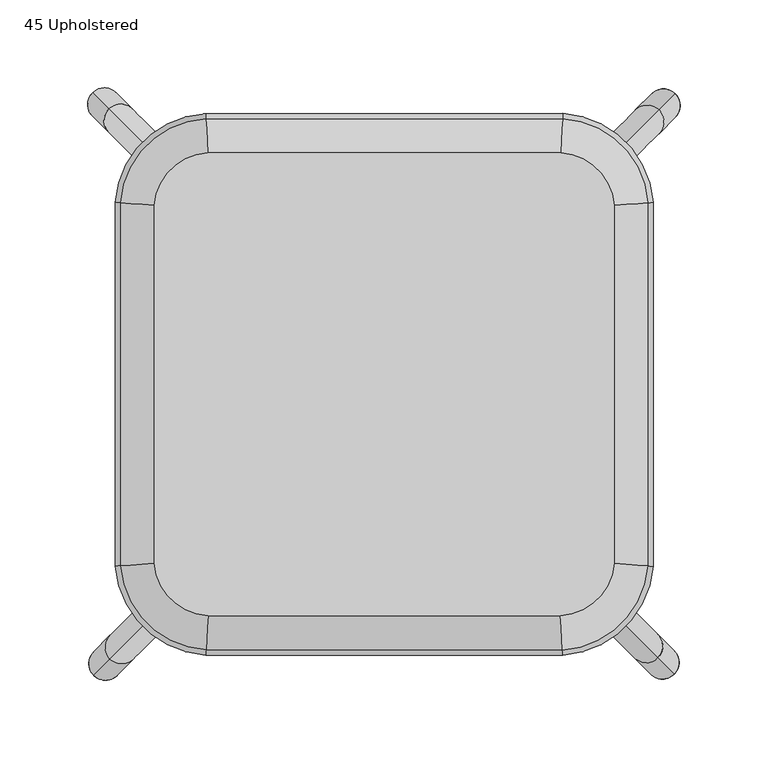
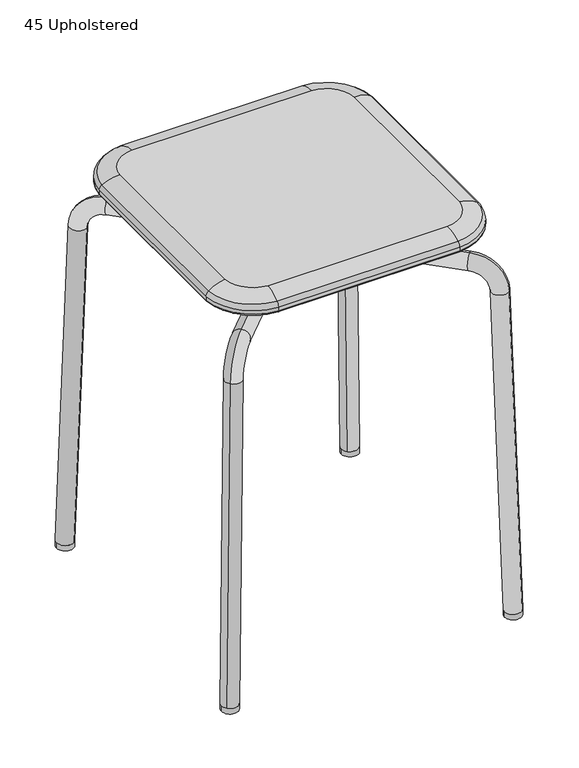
"""IFC4 building model written with IfcOpenShell, lengths in millimetres: furniture geometry, Grip NxT Stool : 45 Upholstered."""

from ifc_helpers import new_model, si_unit, point, frame, frame_2d, origin, origin_with_axes, place, context, project, spatial, circle_curve, ellipse_curve, trimmed, segment, composite_curve, outline, extrude, source, transform, mapped, element, save
from ifc_brep_helpers import plane_surface, cylinder_surface, revolved_surface, advanced_brep


def furniture_45_upholstered_5a6439fb(model_context):
    return source(origin(), model_context, "Body", "SolidModel", [
        advanced_brep(
        [(165.2549262, -165.2549262, 6.7653221), (151.8280816, -151.8280816, 6.1022316), (155.9976183, -155.9976183, 381.66572), (142.5707737, -142.5707737, 381.0026295), (128.0839151, -128.0839151, 419.7871899), (128.0839151, -128.0839151, 400.7871899), (0.1314281, -0.1314281, 419.7871899), (0.1314281, -0.1314281, 400.7871899), (-129.1039076, 129.1039076, 419.7871899), (-129.1039076, 129.1039076, 400.7871899), (-157.0176108, 157.0176108, 381.66572), (-143.5907662, 143.5907662, 381.0026295), (-166.2737555, 166.2737555, 6.812426), (-152.846911, 152.846911, 6.1493355), (165.895769, 165.6329127, 6.7653221), (152.4689244, 152.2060681, 6.1022316), (156.6384611, 156.3756048, 381.66572), (143.2116165, 142.9487603, 381.0026295), (128.7247579, 128.4619016, 419.7871899), (128.7247579, 128.4619016, 400.7871899), (-128.4630647, -128.725921, 419.7871899), (-128.4630647, -128.725921, 400.7871899), (-156.376768, -156.6396242, 381.66572), (-142.9499234, -143.2127797, 381.0026295), (-165.6329127, -165.895769, 6.812426), (-152.2060681, -152.4689244, 6.1493355)],
        [
            (0, 1, circle_curve(frame((158.5415039, -158.5415039, 6.4337769), z_axis=(0.024677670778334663, -0.02467767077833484, -0.9993908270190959), x_axis=(-0.7066760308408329, 0.7066760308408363, -0.034899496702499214)), 9.5)),
            (1, 0, circle_curve(frame((158.5415039, -158.5415039, 6.4337769), z_axis=(0.024677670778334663, -0.02467767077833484, -0.9993908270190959), x_axis=(-0.7066760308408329, 0.7066760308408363, -0.034899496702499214)), 9.5)),
            (0, 2),
            (2, 3, circle_curve(frame((149.284196, -149.284196, 381.3341748), z_axis=(0.024677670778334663, -0.02467767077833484, -0.9993908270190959), x_axis=(-0.7066760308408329, 0.7066760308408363, -0.034899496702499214)), 9.5)),
            (3, 1),
            (3, 2, circle_curve(frame((149.284196, -149.284196, 381.3341748), z_axis=(0.024677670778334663, -0.02467767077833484, -0.9993908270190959), x_axis=(-0.7066760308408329, 0.7066760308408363, -0.034899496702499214)), 9.5)),
            (2, 4, circle_curve(frame((128.0839151, -128.0839151, 380.2871899), z_axis=(-0.7071067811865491, -0.7071067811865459, 0.0), x_axis=(0.7066760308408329, -0.7066760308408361, 0.03489949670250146)), 39.5)),
            (4, 5, circle_curve(frame((128.0839151, -128.0839151, 410.2871899), z_axis=(0.7071067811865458, -0.7071067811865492, 0.0), x_axis=(0.0, 0.0, -1.0)), 9.5)),
            (5, 3, circle_curve(frame((128.0839151, -128.0839151, 380.2871899), z_axis=(0.7071067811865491, 0.7071067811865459, 0.0), x_axis=(0.7066760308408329, -0.7066760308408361, 0.03489949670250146)), 20.5)),
            (5, 4, circle_curve(frame((128.0839151, -128.0839151, 410.2871899), z_axis=(0.7071067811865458, -0.7071067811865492, 0.0), x_axis=(0.0, 0.0, -1.0)), 9.5)),
            (4, 6),
            (6, 7, ellipse_curve(frame((0.1314281, -0.1314281, 410.2871899), z_axis=(1.0, 0.0, 0.0), x_axis=(0.0, -1.0, 0.0)), 13.4350288, 9.5)),
            (7, 5),
            (8, 9, circle_curve(frame((-129.1039076, 129.1039076, 410.2871899), z_axis=(0.7071067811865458, -0.7071067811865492, 0.0), x_axis=(0.0, 0.0, -1.0)), 9.5)),
            (9, 7),
            (7, 6, ellipse_curve(frame((0.1314281, -0.1314281, 410.2871899), z_axis=(0.0, 1.0, 0.0), x_axis=(1.0, 0.0, 0.0)), 13.4350288, 9.5)),
            (6, 8),
            (7, 6, ellipse_curve(frame((0.1314281, -0.1314281, 410.2871899), z_axis=(0.0, -1.0, 0.0), x_axis=(1.0, 0.0, 0.0)), 13.4350288, 9.5)),
            (9, 8, circle_curve(frame((-129.1039076, 129.1039076, 410.2871899), z_axis=(0.7071067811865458, -0.7071067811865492, 0.0), x_axis=(0.0, 0.0, -1.0)), 9.5)),
            (6, 7, ellipse_curve(frame((0.1314281, -0.1314281, 410.2871899), z_axis=(-1.0, 0.0, 0.0), x_axis=(0.0, -1.0, 0.0)), 13.4350288, 9.5)),
            (8, 10, circle_curve(frame((-129.1039076, 129.1039076, 380.2871899), z_axis=(-0.7071067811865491, -0.7071067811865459, 0.0), x_axis=(0.0, 0.0, 1.0)), 39.5)),
            (10, 11, circle_curve(frame((-150.3041885, 150.3041885, 381.3341748), z_axis=(0.024677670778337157, -0.02467767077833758, 0.9993908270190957), x_axis=(0.7066760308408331, -0.7066760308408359, -0.03489949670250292)), 9.5)),
            (11, 9, circle_curve(frame((-129.1039076, 129.1039076, 380.2871899), z_axis=(0.7071067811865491, 0.7071067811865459, 0.0), x_axis=(0.0, 0.0, 1.0)), 20.5)),
            (11, 10, circle_curve(frame((-150.3041885, 150.3041885, 381.3341748), z_axis=(0.02467767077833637, -0.024677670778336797, 0.9993908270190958), x_axis=(0.7066760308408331, -0.7066760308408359, -0.03489949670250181)), 9.5)),
            (12, 13, circle_curve(frame((-159.5603333, 159.5603333, 6.4808807), z_axis=(-0.024677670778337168, 0.02467767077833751, -0.9993908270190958), x_axis=(0.7066760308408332, -0.7066760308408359, -0.03489949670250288)), 9.5)),
            (13, 12, circle_curve(frame((-159.5603333, 159.5603333, 6.4808807), z_axis=(-0.024677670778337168, 0.02467767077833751, -0.9993908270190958), x_axis=(0.7066760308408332, -0.7066760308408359, -0.03489949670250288)), 9.5)),
            (10, 12),
            (13, 11),
            (14, 15, circle_curve(frame((159.1823467, 158.9194904, 6.4337769), z_axis=(0.024677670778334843, 0.024677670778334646, -0.9993908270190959), x_axis=(-0.706676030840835, -0.7066760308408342, -0.03489949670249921)), 9.5)),
            (15, 14, circle_curve(frame((159.1823467, 158.9194904, 6.4337769), z_axis=(0.024677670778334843, 0.024677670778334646, -0.9993908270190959), x_axis=(-0.706676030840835, -0.7066760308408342, -0.03489949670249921)), 9.5)),
            (14, 16),
            (16, 17, circle_curve(frame((149.9250388, 149.6621825, 381.3341748), z_axis=(0.024677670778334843, 0.024677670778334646, -0.9993908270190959), x_axis=(-0.706676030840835, -0.7066760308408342, -0.03489949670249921)), 9.5)),
            (17, 15),
            (17, 16, circle_curve(frame((149.9250388, 149.6621825, 381.3341748), z_axis=(0.024677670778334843, 0.024677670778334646, -0.9993908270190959), x_axis=(-0.706676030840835, -0.7066760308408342, -0.03489949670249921)), 9.5)),
            (16, 18, circle_curve(frame((128.7247579, 128.4619016, 380.2871899), z_axis=(0.707106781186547, -0.707106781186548, 0.0), x_axis=(0.706676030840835, 0.706676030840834, 0.03489949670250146)), 39.5)),
            (18, 19, circle_curve(frame((128.7247579, 128.4619016, 410.2871899), z_axis=(0.7071067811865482, 0.707106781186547, 0.0), x_axis=(0.0, 0.0, -1.0)), 9.5)),
            (19, 17, circle_curve(frame((128.7247579, 128.4619016, 380.2871899), z_axis=(-0.707106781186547, 0.707106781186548, 0.0), x_axis=(0.706676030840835, 0.706676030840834, 0.03489949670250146)), 20.5)),
            (19, 18, circle_curve(frame((128.7247579, 128.4619016, 410.2871899), z_axis=(0.7071067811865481, 0.7071067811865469, 0.0), x_axis=(0.0, 0.0, -1.0)), 9.5)),
            (18, 6),
            (7, 19),
            (20, 21, circle_curve(frame((-128.4630647, -128.725921, 410.2871899), z_axis=(0.7071067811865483, 0.7071067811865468, 0.0), x_axis=(0.0, 0.0, -1.0)), 9.5)),
            (21, 7),
            (6, 20),
            (21, 20, circle_curve(frame((-128.4630647, -128.725921, 410.2871899), z_axis=(0.7071067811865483, 0.7071067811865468, 0.0), x_axis=(0.0, 0.0, -1.0)), 9.5)),
            (20, 22, circle_curve(frame((-128.4630647, -128.725921, 380.2871899), z_axis=(0.707106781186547, -0.707106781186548, 0.0), x_axis=(0.0, 0.0, 1.0)), 39.5)),
            (22, 23, circle_curve(frame((-149.6633457, -149.9262019, 381.3341748), z_axis=(0.02467767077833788, 0.02467767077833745, 0.9993908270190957), x_axis=(0.7066760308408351, 0.7066760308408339, -0.03489949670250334)), 9.5)),
            (23, 21, circle_curve(frame((-128.4630647, -128.725921, 380.2871899), z_axis=(-0.707106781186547, 0.707106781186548, 0.0), x_axis=(0.0, 0.0, 1.0)), 20.5)),
            (23, 22, circle_curve(frame((-149.6633457, -149.9262019, 381.3341748), z_axis=(0.024677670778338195, 0.024677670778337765, 0.9993908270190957), x_axis=(0.7066760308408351, 0.7066760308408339, -0.034899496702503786)), 9.5)),
            (24, 25, circle_curve(frame((-158.9194904, -159.1823467, 6.4808807), z_axis=(-0.02467767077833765, -0.024677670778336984, -0.9993908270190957), x_axis=(0.7066760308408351, 0.7066760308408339, -0.03489949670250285)), 9.5)),
            (25, 24, circle_curve(frame((-158.9194904, -159.1823467, 6.4808807), z_axis=(-0.02467767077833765, -0.024677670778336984, -0.9993908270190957), x_axis=(0.7066760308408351, 0.7066760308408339, -0.03489949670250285)), 9.5)),
            (22, 24),
            (25, 23),
        ],
        [
            plane_surface(frame((158.5415039, -158.5415039, 6.4337769), z_axis=(0.024677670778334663, -0.02467767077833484, -0.9993908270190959), x_axis=(-0.707106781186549, -0.7071067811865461, 0.0))),
            cylinder_surface(frame((158.5415039, -158.5415039, 6.4337769), z_axis=(0.024677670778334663, -0.02467767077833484, -0.9993908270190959), x_axis=(-0.7066760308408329, 0.7066760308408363, -0.034899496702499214)), 9.5),
            revolved_surface(trimmed(ellipse_curve(frame((149.284196, -149.284196, 381.3341748), z_axis=(0.024677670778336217, -0.02467767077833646, -0.9993908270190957), x_axis=(-0.7066760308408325, 0.7066760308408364, -0.03489949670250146)), 9.5, 9.5), [point((155.9976183, -155.9976183, 381.66572))], [point((142.5707737, -142.5707737, 381.0026295))], True, "CARTESIAN"), (128.0839151, -128.0839151, 380.2871899), (-0.7071067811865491, -0.7071067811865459, 0.0)),
            revolved_surface(trimmed(ellipse_curve(frame((149.284196, -149.284196, 381.3341748), z_axis=(0.024677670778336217, -0.02467767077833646, -0.9993908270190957), x_axis=(-0.7066760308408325, 0.7066760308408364, -0.03489949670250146)), 9.5, 9.5), [point((142.5707737, -142.5707737, 381.0026295))], [point((155.9976183, -155.9976183, 381.66572))], True, "CARTESIAN"), (128.0839151, -128.0839151, 380.2871899), (-0.7071067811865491, -0.7071067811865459, 0.0)),
            cylinder_surface(frame((128.0839151, -128.0839151, 410.2871899), z_axis=(0.7071067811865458, -0.7071067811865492, 0.0), x_axis=(0.0, 0.0, -1.0)), 9.5),
            revolved_surface(trimmed(ellipse_curve(frame((-129.1039076, 129.1039076, 410.2871899), z_axis=(0.7071067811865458, -0.7071067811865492, 0.0), x_axis=(0.0, 0.0, -1.0)), 9.5, 9.5), [point((-129.1039076, 129.1039076, 419.7871899))], [point((-129.1039076, 129.1039076, 400.7871899))], True, "CARTESIAN"), (-129.1039076, 129.1039076, 380.2871899), (-0.7071067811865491, -0.7071067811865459, 0.0)),
            revolved_surface(trimmed(ellipse_curve(frame((-129.1039076, 129.1039076, 410.2871899), z_axis=(0.7071067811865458, -0.7071067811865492, 0.0), x_axis=(0.0, 0.0, -1.0)), 9.5, 9.5), [point((-129.1039076, 129.1039076, 400.7871899))], [point((-129.1039076, 129.1039076, 419.7871899))], True, "CARTESIAN"), (-129.1039076, 129.1039076, 380.2871899), (-0.7071067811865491, -0.7071067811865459, 0.0)),
            plane_surface(frame((-159.5603333, 159.5603333, 6.4808807), z_axis=(-0.024677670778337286, 0.0246776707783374, -0.9993908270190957), x_axis=(-0.7071067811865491, -0.7071067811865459, 0.0))),
            cylinder_surface(frame((-150.3041885, 150.3041885, 381.3341748), z_axis=(0.024677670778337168, -0.02467767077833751, 0.9993908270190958), x_axis=(0.7066760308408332, -0.7066760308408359, -0.03489949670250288)), 9.5),
            plane_surface(frame((159.1823467, 158.9194904, 6.4337769), z_axis=(0.024677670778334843, 0.024677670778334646, -0.9993908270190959), x_axis=(0.707106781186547, -0.7071067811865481, 0.0))),
            cylinder_surface(frame((159.1823467, 158.9194904, 6.4337769), z_axis=(0.024677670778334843, 0.024677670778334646, -0.9993908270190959), x_axis=(-0.706676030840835, -0.7066760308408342, -0.03489949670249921)), 9.5),
            revolved_surface(trimmed(ellipse_curve(frame((149.9250388, 149.6621825, 381.3341748), z_axis=(0.024677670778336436, 0.024677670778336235, -0.9993908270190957), x_axis=(-0.7066760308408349, -0.7066760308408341, -0.034899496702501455)), 9.5, 9.5), [point((156.6384611, 156.3756048, 381.66572))], [point((143.2116165, 142.9487603, 381.0026295))], True, "CARTESIAN"), (128.7247579, 128.4619016, 380.2871899), (0.707106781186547, -0.707106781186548, 0.0)),
            revolved_surface(trimmed(ellipse_curve(frame((149.9250388, 149.6621825, 381.3341748), z_axis=(0.024677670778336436, 0.024677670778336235, -0.9993908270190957), x_axis=(-0.7066760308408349, -0.7066760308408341, -0.034899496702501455)), 9.5, 9.5), [point((143.2116165, 142.9487603, 381.0026295))], [point((156.6384611, 156.3756048, 381.66572))], True, "CARTESIAN"), (128.7247579, 128.4619016, 380.2871899), (0.707106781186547, -0.707106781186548, 0.0)),
            cylinder_surface(frame((128.7247579, 128.4619016, 410.2871899), z_axis=(0.7071067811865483, 0.7071067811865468, 0.0), x_axis=(0.0, 0.0, -1.0)), 9.5),
            revolved_surface(trimmed(ellipse_curve(frame((-128.4630647, -128.725921, 410.2871899), z_axis=(0.7071067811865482, 0.7071067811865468, 0.0), x_axis=(0.0, 0.0, -1.0)), 9.5, 9.5), [point((-128.4630647, -128.725921, 419.7871899))], [point((-128.4630647, -128.725921, 400.7871899))], True, "CARTESIAN"), (-128.4630647, -128.725921, 380.2871899), (0.707106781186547, -0.707106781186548, 0.0)),
            revolved_surface(trimmed(ellipse_curve(frame((-128.4630647, -128.725921, 410.2871899), z_axis=(0.7071067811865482, 0.7071067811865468, 0.0), x_axis=(0.0, 0.0, -1.0)), 9.5, 9.5), [point((-128.4630647, -128.725921, 400.7871899))], [point((-128.4630647, -128.725921, 419.7871899))], True, "CARTESIAN"), (-128.4630647, -128.725921, 380.2871899), (0.707106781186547, -0.707106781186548, 0.0)),
            plane_surface(frame((-158.9194904, -159.1823467, 6.4808807), z_axis=(-0.024677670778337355, -0.024677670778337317, -0.9993908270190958), x_axis=(0.707106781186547, -0.7071067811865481, 0.0))),
            cylinder_surface(frame((-149.6633457, -149.9262019, 381.3341748), z_axis=(0.024677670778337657, 0.02467767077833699, 0.9993908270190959), x_axis=(0.7066760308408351, 0.7066760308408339, -0.03489949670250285)), 9.5),
        ],
        [
            (0, [[1, 2]]),
            (1, [[-1, 3, 4, 5]]),
            (1, [[-2, -5, 6, -3]]),
            (2, [[-4, 7, 8, 9]]),
            (3, [[-6, -9, 10, -7]]),
            (4, [[-8, 11, 12, 13]]),
            (4, [[14, 15, 16, 17]]),
            (4, [[-10, -13, 18, -11]]),
            (4, [[19, -17, 20, -15]]),
            (5, [[-14, 21, 22, 23]]),
            (6, [[-19, -23, 24, -21]]),
            (7, [[25, 26]]),
            (8, [[-22, 27, -26, 28]]),
            (8, [[-24, -28, -25, -27]]),
            (9, [[29, 30]]),
            (10, [[-29, 31, 32, 33]]),
            (10, [[-30, -33, 34, -31]]),
            (11, [[-32, 35, 36, 37]]),
            (12, [[-34, -37, 38, -35]]),
            (13, [[-36, 39, -18, 40]]),
            (13, [[41, 42, -12, 43]]),
            (13, [[-38, -40, -20, -39]]),
            (13, [[44, -43, -16, -42]]),
            (14, [[-41, 45, 46, 47]]),
            (15, [[-44, -47, 48, -45]]),
            (16, [[49, 50]]),
            (17, [[-46, 51, -50, 52]]),
            (17, [[-48, -52, -49, -51]]),
        ],
    ),
        extrude(outline(composite_curve([segment(trimmed(circle_curve(frame_2d((-62.8430475, -62.9984816)), 9.0), [point((-71.8430475, -62.9984816))], [point((-53.8430475, -62.9984816))], False, "CARTESIAN"), True, "CONTINUOUS"), segment(trimmed(circle_curve(frame_2d((-62.8430475, -62.9984816)), 9.0), [point((-53.8430475, -62.9984816))], [point((-71.8430475, -62.9984816))], False, "CARTESIAN"), True, "CONTINUOUS")], self_intersect=False)), frame((0.0, 0.0, 388.5318909), z_axis=(0.0, 0.0, 1.0), x_axis=(1.0, 0.0, 0.0)), (0.0, 0.0, 1.0), 56.7956238),
        extrude(outline(composite_curve([segment(trimmed(circle_curve(frame_2d((-62.9013824, 62.8818117)), 9.0), [point((-71.9013824, 62.8818117))], [point((-53.9013824, 62.8818117))], False, "CARTESIAN"), True, "CONTINUOUS"), segment(trimmed(circle_curve(frame_2d((-62.9013824, 62.8818117)), 9.0), [point((-53.9013824, 62.8818117))], [point((-71.9013824, 62.8818117))], False, "CARTESIAN"), True, "CONTINUOUS")], self_intersect=False)), frame((0.0, 0.0, 388.5318909), z_axis=(0.0, 0.0, 1.0), x_axis=(1.0, 0.0, 0.0)), (0.0, 0.0, 1.0), 56.7956238),
        extrude(outline(composite_curve([segment(trimmed(circle_curve(frame_2d((63.0190462, 62.6464842)), 9.0), [point((72.0190462, 62.6464842))], [point((54.0190462, 62.6464842))], False, "CARTESIAN"), True, "CONTINUOUS"), segment(trimmed(circle_curve(frame_2d((63.0190462, 62.6464842)), 9.0), [point((54.0190462, 62.6464842))], [point((72.0190462, 62.6464842))], False, "CARTESIAN"), True, "CONTINUOUS")], self_intersect=False)), frame((0.0, 0.0, 388.5318909), z_axis=(0.0, 0.0, 1.0), x_axis=(1.0, 0.0, 0.0)), (0.0, 0.0, 1.0), 56.7956238),
        extrude(outline(composite_curve([segment(trimmed(circle_curve(frame_2d((62.8430475, -62.9984816)), 9.0), [point((71.8430475, -62.9984816))], [point((53.8430475, -62.9984816))], False, "CARTESIAN"), True, "CONTINUOUS"), segment(trimmed(circle_curve(frame_2d((62.8430475, -62.9984816)), 9.0), [point((53.8430475, -62.9984816))], [point((71.8430475, -62.9984816))], False, "CARTESIAN"), True, "CONTINUOUS")], self_intersect=False)), frame((0.0, 0.0, 388.5318909), z_axis=(0.0, 0.0, 1.0), x_axis=(1.0, 0.0, 0.0)), (0.0, 0.0, 1.0), 56.7956238),
        extrude(outline(composite_curve([segment(trimmed(circle_curve(frame_2d((-158.9072278, -159.1772871)), 9.5), [point((-168.4072278, -159.1772871))], [point((-149.4072278, -159.1772871))], False, "CARTESIAN"), True, "CONTINUOUS"), segment(trimmed(circle_curve(frame_2d((-158.9072278, -159.1772871)), 9.5), [point((-149.4072278, -159.1772871))], [point((-168.4072278, -159.1772871))], False, "CARTESIAN"), True, "CONTINUOUS")], self_intersect=False)), origin_with_axes(), (0.0, 0.0, 1.0), 7.0),
        extrude(outline(composite_curve([segment(trimmed(circle_curve(frame_2d((-159.4918114, 159.500871)), 9.5), [point((-168.9918114, 159.500871))], [point((-149.9918114, 159.500871))], False, "CARTESIAN"), True, "CONTINUOUS"), segment(trimmed(circle_curve(frame_2d((-159.4918114, 159.500871)), 9.5), [point((-149.9918114, 159.500871))], [point((-168.9918114, 159.500871))], False, "CARTESIAN"), True, "CONTINUOUS")], self_intersect=False)), origin_with_axes(), (0.0, 0.0, 1.0), 7.0),
        extrude(outline(composite_curve([segment(trimmed(circle_curve(frame_2d((159.1861771, 158.971276)), 9.5325021), [point((149.653675, 158.971276))], [point((168.7186793, 158.971276))], False, "CARTESIAN"), True, "CONTINUOUS"), segment(trimmed(circle_curve(frame_2d((159.1861771, 158.971276)), 9.5325021), [point((168.7186793, 158.971276))], [point((149.653675, 158.971276))], False, "CARTESIAN"), True, "CONTINUOUS")], self_intersect=False)), origin_with_axes(), (0.0, 0.0, 1.0), 7.0),
        extrude(outline(composite_curve([segment(trimmed(circle_curve(frame_2d((158.5471745, -158.5595901)), 9.5), [point((149.0471745, -158.5595901))], [point((168.0471745, -158.5595901))], False, "CARTESIAN"), True, "CONTINUOUS"), segment(trimmed(circle_curve(frame_2d((158.5471745, -158.5595901)), 9.5), [point((168.0471745, -158.5595901))], [point((149.0471745, -158.5595901))], False, "CARTESIAN"), True, "CONTINUOUS")], self_intersect=False)), origin_with_axes(), (0.0, 0.0, 1.0), 7.0),
        advanced_brep(
        [(62.864624, 55.9496384, 455.3895874), (62.864624, 69.8431778, 455.3895874), (62.864624, 62.8964081, 455.3895874), (62.864624, 62.8964081, 456.5699158)],
        [
            (0, 1, circle_curve(frame((62.864624, 62.8964081, 455.3895874), z_axis=(0.0, 0.0, -1.0), x_axis=(0.0, 1.0, 0.0)), 6.9467697)),
            (1, 2),
            (2, 0),
            (1, 0, circle_curve(frame((62.864624, 62.8964081, 455.3895874), z_axis=(0.0, 0.0, -1.0), x_axis=(0.0, 1.0, 0.0)), 6.9467697)),
            (3, 1, circle_curve(frame((62.864624, 63.1234591, 436.8735995), z_axis=(-1.0, 0.0, 0.0), x_axis=(0.0, 1.0, 0.0)), 19.6976249)),
            (0, 3, circle_curve(frame((62.864624, 62.669357, 436.8735995), z_axis=(-1.0, 0.0, 0.0), x_axis=(0.0, -1.0, 0.0)), 19.6976249)),
        ],
        [
            plane_surface(frame((62.864624, 62.8964081, 455.3895874), z_axis=(0.0, 0.0, -1.0), x_axis=(0.0, 1.0, 0.0))),
            revolved_surface(trimmed(ellipse_curve(frame((62.864624, 63.1234591, 436.8735995), z_axis=(1.0, 0.0, 0.0), x_axis=(0.0, 1.0, 0.0)), 19.6976249, 19.6976249), [point((62.864624, 69.8431778, 455.3895874))], [point((62.864624, 62.8964081, 456.5699158))], True, "CARTESIAN"), (62.864624, 62.8964081, 456.2266692), (0.0, 0.0, 1.0)),
        ],
        [
            (0, [[1, 2, 3]]),
            (0, [[4, -3, -2]]),
            (1, [[5, -1, 6]]),
            (1, [[-6, -4, -5]]),
        ],
    ),
        advanced_brep(
        [(62.864624, -62.8964081, 455.3895874), (62.864624, -69.8431778, 455.3895874), (62.864624, -55.9496384, 455.3895874), (62.864624, -62.8964081, 456.5699158)],
        [
            (0, 1),
            (1, 2, circle_curve(frame((62.864624, -62.8964081, 455.3895874), z_axis=(0.0, 0.0, -1.0), x_axis=(0.0, -1.0, 0.0)), 6.9467697)),
            (2, 0),
            (2, 1, circle_curve(frame((62.864624, -62.8964081, 455.3895874), z_axis=(0.0, 0.0, -1.0), x_axis=(0.0, -1.0, 0.0)), 6.9467697)),
            (1, 3, circle_curve(frame((62.864624, -63.1234591, 436.8735995), z_axis=(-1.0, 0.0, 0.0), x_axis=(0.0, -1.0, 0.0)), 19.6976249)),
            (3, 2, circle_curve(frame((62.864624, -62.669357, 436.8735995), z_axis=(-1.0, 0.0, 0.0), x_axis=(0.0, 1.0, 0.0)), 19.6976249)),
        ],
        [
            plane_surface(frame((62.864624, -62.8964081, 455.3895874), z_axis=(0.0, 0.0, -1.0), x_axis=(0.0, -1.0, 0.0))),
            revolved_surface(trimmed(ellipse_curve(frame((62.864624, -63.1234591, 436.8735995), z_axis=(1.0, 0.0, 0.0), x_axis=(0.0, -1.0, 0.0)), 19.6976249, 19.6976249), [point((62.864624, -62.8964081, 456.5699158))], [point((62.864624, -69.8431778, 455.3895874))], True, "CARTESIAN"), (62.864624, -62.8964081, 456.2266692), (0.0, 0.0, -1.0)),
        ],
        [
            (0, [[1, 2, 3]]),
            (0, [[-3, 4, -1]]),
            (1, [[-2, 5, 6]]),
            (1, [[-4, -6, -5]]),
        ],
    ),
        advanced_brep(
        [(-62.864624, 62.8964081, 455.3895874), (-62.864624, 69.8431778, 455.3895874), (-62.864624, 55.9496384, 455.3895874), (-62.864624, 62.8964081, 456.5699158)],
        [
            (0, 1),
            (1, 2, circle_curve(frame((-62.864624, 62.8964081, 455.3895874), z_axis=(0.0, 0.0, -1.0), x_axis=(0.0, 1.0, 0.0)), 6.9467697)),
            (2, 0),
            (2, 1, circle_curve(frame((-62.864624, 62.8964081, 455.3895874), z_axis=(0.0, 0.0, -1.0), x_axis=(0.0, 1.0, 0.0)), 6.9467697)),
            (1, 3, circle_curve(frame((-62.864624, 63.1234591, 436.8735995), z_axis=(1.0, 0.0, 0.0), x_axis=(0.0, 1.0, 0.0)), 19.6976249)),
            (3, 2, circle_curve(frame((-62.864624, 62.669357, 436.8735995), z_axis=(1.0, 0.0, 0.0), x_axis=(0.0, -1.0, 0.0)), 19.6976249)),
        ],
        [
            plane_surface(frame((-62.864624, 62.8964081, 455.3895874), z_axis=(0.0, 0.0, -1.0), x_axis=(0.0, 1.0, 0.0))),
            revolved_surface(trimmed(ellipse_curve(frame((-62.864624, 63.1234591, 436.8735995), z_axis=(-1.0, 0.0, 0.0), x_axis=(0.0, 1.0, 0.0)), 19.6976249, 19.6976249), [point((-62.864624, 62.8964081, 456.5699158))], [point((-62.864624, 69.8431778, 455.3895874))], True, "CARTESIAN"), (-62.864624, 62.8964081, 456.2266692), (0.0, 0.0, -1.0)),
        ],
        [
            (0, [[1, 2, 3]]),
            (0, [[-3, 4, -1]]),
            (1, [[-2, 5, 6]]),
            (1, [[-4, -6, -5]]),
        ],
    ),
        advanced_brep(
        [(-62.864624, -55.9496384, 455.3895874), (-62.864624, -69.8431778, 455.3895874), (-62.864624, -62.8964081, 455.3895874), (-62.864624, -62.8964081, 456.5699158)],
        [
            (0, 1, circle_curve(frame((-62.864624, -62.8964081, 455.3895874), z_axis=(0.0, 0.0, -1.0), x_axis=(0.0, -1.0, 0.0)), 6.9467697)),
            (1, 2),
            (2, 0),
            (1, 0, circle_curve(frame((-62.864624, -62.8964081, 455.3895874), z_axis=(0.0, 0.0, -1.0), x_axis=(0.0, -1.0, 0.0)), 6.9467697)),
            (3, 1, circle_curve(frame((-62.864624, -63.1234591, 436.8735995), z_axis=(1.0, 0.0, 0.0), x_axis=(0.0, -1.0, 0.0)), 19.6976249)),
            (0, 3, circle_curve(frame((-62.864624, -62.669357, 436.8735995), z_axis=(1.0, 0.0, 0.0), x_axis=(0.0, 1.0, 0.0)), 19.6976249)),
        ],
        [
            plane_surface(frame((-62.864624, -62.8964081, 455.3895874), z_axis=(0.0, 0.0, -1.0), x_axis=(0.0, -1.0, 0.0))),
            revolved_surface(trimmed(ellipse_curve(frame((-62.864624, -63.1234591, 436.8735995), z_axis=(-1.0, 0.0, 0.0), x_axis=(0.0, -1.0, 0.0)), 19.6976249, 19.6976249), [point((-62.864624, -69.8431778, 455.3895874))], [point((-62.864624, -62.8964081, 456.5699158))], True, "CARTESIAN"), (-62.864624, -62.8964081, 456.2266692), (0.0, 0.0, 1.0)),
        ],
        [
            (0, [[1, 2, 3]]),
            (0, [[4, -3, -2]]),
            (1, [[5, -1, 6]]),
            (1, [[-6, -4, -5]]),
        ],
    ),
        advanced_brep(
        [(-131.0605483, -101.9878959, 463.3753357), (-100.4581973, -131.9836879, 463.3753357), (100.4494124, -132.0056064, 463.3753357), (131.0588208, -102.0099497, 463.3753357), (131.1339121, 101.9817763, 463.3753357), (100.524043, 132.0012767, 463.3753357), (-100.5328129, 131.9793428, 463.3753357), (-131.1356245, 101.9597069, 463.3753357), (-101.6290743, -152.0977953, 445.3753358), (-151.1471881, -103.5611635, 445.3753358), (-151.2234172, 103.5181856, 445.3753358), (-101.7045579, 152.0933996, 445.3753358), (101.6913993, 152.1155887, 445.3753358), (151.2216785, 103.5405939, 445.3753358), (151.145434, -103.5835559, 445.3753358), (101.6159005, -152.1199687, 445.3753358), (101.8220911, 154.3674938, 451.5193638), (101.8220911, 154.3674938, 447.6310301), (-101.835741, 154.3452761, 447.6310301), (-101.835741, 154.3452761, 451.5193638), (-153.4723532, 103.6926657, 447.6310301), (-153.4723532, 103.6926657, 451.5193638), (-153.3959951, -103.7372992, 447.6310301), (-153.3959951, -103.7372992, 451.5193638), (-101.7601602, -154.3496775, 447.6310301), (-101.7601602, -154.3496775, 451.5193638), (101.7464951, -154.3718795, 447.6310301), (101.7464951, -154.3718795, 451.5193638), (153.3942381, -103.7597296, 447.6310301), (153.3942381, -103.7597296, 451.5193638), (153.4706116, 103.7151119, 447.6310301), (153.4706116, 103.7151119, 451.5193638), (-150.5204537, -103.5120751, 457.1225667), (-101.5925411, -151.4702038, 457.1225667), (-150.5966468, 103.4695587, 457.1225667), (-101.6679976, 151.4658098, 457.1225667), (101.654976, 151.4879909, 457.1225667), (150.5949089, 103.4919563, 457.1225667), (150.5187004, -103.534457, 457.1225667), (101.5795043, -151.4923694, 457.1225667)],
        [
            (0, 1, circle_curve(frame((-98.563926, -99.4426279, 463.3753357), z_axis=(0.0, 0.0, 1.0), x_axis=(-0.058113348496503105, -0.9983099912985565, 0.0)), 32.5961478)),
            (1, 2, circle_curve(frame((0.1842272, 1596.9192332, 463.3753357), z_axis=(0.0, 0.0, 1.0), x_axis=(0.057895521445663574, -0.9983226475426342, 0.0)), 1731.8297284)),
            (2, 3, circle_curve(frame((98.5622414, -99.4641338, 463.3753357), z_axis=(0.0, 0.0, 1.0), x_axis=(0.996945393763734, -0.07810174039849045, 0.0)), 32.5961478)),
            (3, 4, circle_curve(frame((-1177.0345732, 0.4674491, 463.3753357), z_axis=(0.0, 0.0, 1.0), x_axis=(0.9970026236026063, 0.07736774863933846, 0.0)), 1312.1013469)),
            (4, 5, circle_curve(frame((98.6354673, 99.4598857, 463.3753357), z_axis=(0.0, 0.0, 1.0), x_axis=(0.057938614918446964, 0.9983201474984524, 0.0)), 32.5961478)),
            (5, 6, circle_curve(frame((0.1842272, -1596.9192332, 463.3753357), z_axis=(0.0, 0.0, 1.0), x_axis=(-0.058156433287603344, 0.9983074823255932, 0.0)), 1731.8297284)),
            (6, 7, circle_curve(frame((-98.6371372, 99.4383646, 463.3753357), z_axis=(0.0, 0.0, 1.0), x_axis=(-0.997003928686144, 0.0773509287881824, 0.0)), 32.5961478)),
            (7, 0, circle_curve(frame((1177.0345732, 0.4674491, 463.3753357), z_axis=(0.0, 0.0, 1.0), x_axis=(-0.9969467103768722, -0.0780849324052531, 0.0)), 1312.1013469)),
            (8, 9, circle_curve(frame((-98.563926, -99.4426279, 445.3753358), z_axis=(0.0, 0.0, -1.0), x_axis=(-0.058113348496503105, -0.9983099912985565, 0.0)), 52.7443057)),
            (9, 10, circle_curve(frame((1177.0345732, 0.4674491, 445.3753358), z_axis=(0.0, 0.0, -1.0), x_axis=(-0.9969467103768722, -0.0780849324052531, 0.0)), 1332.2495049)),
            (10, 11, circle_curve(frame((-98.6371372, 99.4383646, 445.3753358), z_axis=(0.0, 0.0, -1.0), x_axis=(-0.997003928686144, 0.0773509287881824, 0.0)), 52.7443057)),
            (11, 12, circle_curve(frame((0.1842272, -1596.9192332, 445.3753358), z_axis=(0.0, 0.0, -1.0), x_axis=(-0.058156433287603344, 0.9983074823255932, 0.0)), 1751.9778864)),
            (12, 13, circle_curve(frame((98.6354673, 99.4598857, 445.3753358), z_axis=(0.0, 0.0, -1.0), x_axis=(0.057938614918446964, 0.9983201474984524, 0.0)), 52.7443057)),
            (13, 14, circle_curve(frame((-1177.0345732, 0.4674491, 445.3753358), z_axis=(0.0, 0.0, -1.0), x_axis=(0.9970026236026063, 0.07736774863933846, 0.0)), 1332.2495049)),
            (14, 15, circle_curve(frame((98.5622414, -99.4641338, 445.3753358), z_axis=(0.0, 0.0, -1.0), x_axis=(0.996945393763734, -0.07810174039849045, 0.0)), 52.7443057)),
            (15, 8, circle_curve(frame((0.1842272, 1596.9192332, 445.3753358), z_axis=(0.0, 0.0, -1.0), x_axis=(0.057895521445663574, -0.9983226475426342, 0.0)), 1751.9778864)),
            (16, 17),
            (17, 18, circle_curve(frame((0.1842272, -1596.9192332, 447.6310301), z_axis=(0.0, 0.0, 1.0), x_axis=(1.0, 0.0, 0.0)), 1754.2335807)),
            (18, 19),
            (19, 16, circle_curve(frame((0.1842272, -1596.9192332, 451.5193638), z_axis=(0.0, 0.0, -1.0), x_axis=(1.0, 0.0, 0.0)), 1754.2335807)),
            (18, 20, circle_curve(frame((-98.6371372, 99.4383646, 447.6310301), z_axis=(0.0, 0.0, 1.0), x_axis=(1.0, 0.0, 0.0)), 55.0)),
            (20, 21),
            (21, 19, circle_curve(frame((-98.6371372, 99.4383646, 451.5193638), z_axis=(0.0, 0.0, -1.0), x_axis=(1.0, 0.0, 0.0)), 55.0)),
            (20, 22, circle_curve(frame((1177.0345732, 0.4674491, 447.6310301), z_axis=(0.0, 0.0, 1.0), x_axis=(1.0, 0.0, 0.0)), 1334.5051992)),
            (22, 23),
            (23, 21, circle_curve(frame((1177.0345732, 0.4674491, 451.5193638), z_axis=(0.0, 0.0, -1.0), x_axis=(1.0, 0.0, 0.0)), 1334.5051992)),
            (22, 24, circle_curve(frame((-98.563926, -99.4426279, 447.6310301), z_axis=(0.0, 0.0, 1.0), x_axis=(1.0, 0.0, 0.0)), 55.0)),
            (24, 25),
            (25, 23, circle_curve(frame((-98.563926, -99.4426279, 451.5193638), z_axis=(0.0, 0.0, -1.0), x_axis=(1.0, 0.0, 0.0)), 55.0)),
            (24, 26, circle_curve(frame((0.1842272, 1596.9192332, 447.6310301), z_axis=(0.0, 0.0, 1.0), x_axis=(1.0, 0.0, 0.0)), 1754.2335807)),
            (26, 27),
            (27, 25, circle_curve(frame((0.1842272, 1596.9192332, 451.5193638), z_axis=(0.0, 0.0, -1.0), x_axis=(1.0, 0.0, 0.0)), 1754.2335807)),
            (26, 28, circle_curve(frame((98.5622414, -99.4641338, 447.6310301), z_axis=(0.0, 0.0, 1.0), x_axis=(1.0, 0.0, 0.0)), 55.0)),
            (28, 29),
            (29, 27, circle_curve(frame((98.5622414, -99.4641338, 451.5193638), z_axis=(0.0, 0.0, -1.0), x_axis=(1.0, 0.0, 0.0)), 55.0)),
            (28, 30, circle_curve(frame((-1177.0345732, 0.4674491, 447.6310301), z_axis=(0.0, 0.0, 1.0), x_axis=(-1.0, 0.0, 0.0)), 1334.5051992)),
            (30, 31),
            (31, 29, circle_curve(frame((-1177.0345732, 0.4674491, 451.5193638), z_axis=(0.0, 0.0, -1.0), x_axis=(-1.0, 0.0, 0.0)), 1334.5051992)),
            (16, 31, circle_curve(frame((98.6354673, 99.4598857, 451.5193638), z_axis=(0.0, 0.0, -1.0), x_axis=(1.0, 0.0, 0.0)), 55.0)),
            (30, 17, circle_curve(frame((98.6354673, 99.4598857, 447.6310301), z_axis=(0.0, 0.0, 1.0), x_axis=(1.0, 0.0, 0.0)), 55.0)),
            (22, 9, circle_curve(frame((-151.1471881, -103.5611635, 447.6310301), z_axis=(0.0780849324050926, -0.9969467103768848, 0.0), x_axis=(-0.9969467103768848, -0.0780849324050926, 0.0)), 2.2556943)),
            (8, 24, circle_curve(frame((-101.6290743, -152.0977953, 447.6310301), z_axis=(-0.9983099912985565, 0.05811334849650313, 0.0), x_axis=(-0.05811334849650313, -0.9983099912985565, 0.0)), 2.2556943)),
            (20, 10, circle_curve(frame((-151.2234172, 103.5181856, 447.6310301), z_axis=(-0.0773509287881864, -0.9970039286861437, 0.0), x_axis=(-0.9970039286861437, 0.0773509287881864, 0.0)), 2.2556943)),
            (18, 11, circle_curve(frame((-101.7045579, 152.0933996, 447.6310301), z_axis=(-0.9983074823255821, -0.05815643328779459, 0.0), x_axis=(-0.05815643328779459, 0.9983074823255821, 0.0)), 2.2556943)),
            (17, 12, circle_curve(frame((101.6913993, 152.1155887, 447.6310301), z_axis=(-0.9983201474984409, 0.05793861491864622, 0.0), x_axis=(0.05793861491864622, 0.9983201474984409, 0.0)), 2.2556943)),
            (30, 13, circle_curve(frame((151.2216785, 103.5405939, 447.6310301), z_axis=(-0.0773677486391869, 0.9970026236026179, 0.0), x_axis=(0.9970026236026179, 0.0773677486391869, 0.0)), 2.2556943)),
            (28, 14, circle_curve(frame((151.145434, -103.5835559, 447.6310301), z_axis=(0.07810174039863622, 0.9969453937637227, 0.0), x_axis=(0.9969453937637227, -0.07810174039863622, 0.0)), 2.2556943)),
            (26, 15, circle_curve(frame((101.6159005, -152.1199687, 447.6310301), z_axis=(0.998322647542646, 0.05789552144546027, 0.0), x_axis=(0.05789552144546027, -0.998322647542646, 0.0)), 2.2556943)),
            (32, 23, circle_curve(frame((-146.5323846, -103.1997132, 451.5193638), z_axis=(0.07808493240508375, -0.9969467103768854, 0.0), x_axis=(-0.9969467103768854, -0.07808493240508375, 0.0)), 6.8846313)),
            (25, 33, circle_curve(frame((-101.3600712, -147.4766812, 451.5193638), z_axis=(-0.9983099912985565, 0.05811334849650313, 0.0), x_axis=(-0.05811334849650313, -0.9983099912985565, 0.0)), 6.8846313)),
            (33, 32, circle_curve(frame((-98.563926, -99.4426279, 457.1225667), z_axis=(0.0, 0.0, -1.0), x_axis=(-0.058113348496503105, -0.9983099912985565, 0.0)), 52.1156518)),
            (33, 1, circle_curve(frame((-100.4581973, -131.9836879, 429.7815664), z_axis=(-0.9983099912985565, 0.05811334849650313, 0.0), x_axis=(-0.05811334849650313, -0.9983099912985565, 0.0)), 33.5937693)),
            (0, 32, circle_curve(frame((-131.0605483, -101.9878959, 429.7815664), z_axis=(0.0780849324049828, -0.9969467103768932, 0.0), x_axis=(-0.9969467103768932, -0.0780849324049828, 0.0)), 33.5937693)),
            (32, 34, circle_curve(frame((1177.0345732, 0.4674491, 457.1225667), z_axis=(0.0, 0.0, -1.0), x_axis=(-0.9969467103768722, -0.0780849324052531, 0.0)), 1331.620851)),
            (34, 21, circle_curve(frame((-146.6083488, 103.1601331, 451.5193638), z_axis=(-0.07735092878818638, -0.9970039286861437, 0.0), x_axis=(-0.9970039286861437, 0.07735092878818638, 0.0)), 6.8846313)),
            (7, 34, circle_curve(frame((-131.1356245, 101.9597069, 429.7815664), z_axis=(-0.07735092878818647, -0.9970039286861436, 0.0), x_axis=(-0.9970039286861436, 0.07735092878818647, 0.0)), 33.5937693)),
            (34, 35, circle_curve(frame((-98.6371372, 99.4383646, 457.1225667), z_axis=(0.0, 0.0, -1.0), x_axis=(-0.997003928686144, 0.0773509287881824, 0.0)), 52.1156518)),
            (35, 19, circle_curve(frame((-101.4353554, 147.4722972, 451.5193638), z_axis=(-0.9983074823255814, -0.05815643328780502, 0.0), x_axis=(-0.05815643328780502, 0.9983074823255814, 0.0)), 6.8846313)),
            (6, 35, circle_curve(frame((-100.5328129, 131.9793428, 429.7815664), z_axis=(-0.9983074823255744, -0.058156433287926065, 0.0), x_axis=(-0.058156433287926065, 0.9983074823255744, 0.0)), 33.5937693)),
            (35, 36, circle_curve(frame((0.1842272, -1596.9192332, 457.1225667), z_axis=(0.0, 0.0, -1.0), x_axis=(-0.058156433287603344, 0.9983074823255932, 0.0)), 1751.3492325)),
            (36, 16, circle_curve(frame((101.4232051, 147.4944277, 451.5193638), z_axis=(-0.9983201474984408, 0.05793861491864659, 0.0), x_axis=(0.05793861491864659, 0.9983201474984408, 0.0)), 6.8846313)),
            (5, 36, circle_curve(frame((100.524043, 132.0012767, 429.7815664), z_axis=(-0.9983201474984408, 0.05793861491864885, 0.0), x_axis=(0.05793861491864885, 0.9983201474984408, 0.0)), 33.5937693)),
            (36, 37, circle_curve(frame((98.6354673, 99.4598857, 457.1225667), z_axis=(0.0, 0.0, -1.0), x_axis=(0.057938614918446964, 0.9983201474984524, 0.0)), 52.1156518)),
            (37, 31, circle_curve(frame((146.6066161, 103.1824634, 451.5193638), z_axis=(-0.07736774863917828, 0.9970026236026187, 0.0), x_axis=(0.9970026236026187, 0.07736774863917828, 0.0)), 6.8846313)),
            (4, 37, circle_curve(frame((131.1339121, 101.9817763, 429.7815664), z_axis=(-0.077367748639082, 0.9970026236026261, 0.0), x_axis=(0.9970026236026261, 0.077367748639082, 0.0)), 33.5937693)),
            (37, 38, circle_curve(frame((-1177.0345732, 0.4674491, 457.1225667), z_axis=(0.0, 0.0, -1.0), x_axis=(0.9970026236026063, 0.07736774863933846, 0.0)), 1331.620851)),
            (38, 29, circle_curve(frame((146.5306366, -103.2220279, 451.5193638), z_axis=(0.07810174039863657, 0.9969453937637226, 0.0), x_axis=(0.9969453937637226, -0.07810174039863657, 0.0)), 6.8846313)),
            (3, 38, circle_curve(frame((131.0588208, -102.0099497, 429.7815664), z_axis=(0.07810174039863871, 0.9969453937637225, 0.0), x_axis=(0.9969453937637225, -0.07810174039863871, 0.0)), 33.5937693)),
            (38, 39, circle_curve(frame((98.5622414, -99.4641338, 457.1225667), z_axis=(0.0, 0.0, -1.0), x_axis=(0.996945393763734, -0.07810174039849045, 0.0)), 52.1156518)),
            (39, 27, circle_curve(frame((101.3479058, -147.4987961, 451.5193638), z_axis=(0.9983226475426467, 0.05789552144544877, 0.0), x_axis=(0.05789552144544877, -0.9983226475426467, 0.0)), 6.8846313)),
            (2, 39, circle_curve(frame((100.4494124, -132.0056064, 429.7815664), z_axis=(0.9983226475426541, 0.05789552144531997, 0.0), x_axis=(0.05789552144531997, -0.9983226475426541, 0.0)), 33.5937693)),
            (39, 33, circle_curve(frame((0.1842272, 1596.9192332, 457.1225667), z_axis=(0.0, 0.0, -1.0), x_axis=(0.057895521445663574, -0.9983226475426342, 0.0)), 1751.3492325)),
        ],
        [
            plane_surface(frame((1754.4178079, -1596.9192332, 463.3753357), z_axis=(0.0, 0.0, 1.0), x_axis=(0.0, 1.0, 0.0))),
            plane_surface(frame((1754.4178079, -1596.9192332, 445.3753358), z_axis=(0.0, 0.0, -1.0), x_axis=(0.0, -1.0, 0.0))),
            cylinder_surface(frame((0.1842272, -1596.9192332, 445.3753358), z_axis=(0.0, 0.0, 1.0), x_axis=(1.0, 0.0, 0.0)), 1754.2335807),
            cylinder_surface(frame((-98.6371372, 99.4383646, 445.3753358), z_axis=(0.0, 0.0, 1.0), x_axis=(1.0, 0.0, 0.0)), 55.0),
            cylinder_surface(frame((1177.0345732, 0.4674491, 445.3753358), z_axis=(0.0, 0.0, 1.0), x_axis=(1.0, 0.0, 0.0)), 1334.5051992),
            cylinder_surface(frame((-98.563926, -99.4426279, 445.3753358), z_axis=(0.0, 0.0, 1.0), x_axis=(1.0, 0.0, 0.0)), 55.0),
            cylinder_surface(frame((0.1842272, 1596.9192332, 445.3753358), z_axis=(0.0, 0.0, 1.0), x_axis=(1.0, 0.0, 0.0)), 1754.2335807),
            cylinder_surface(frame((98.5622414, -99.4641338, 445.3753358), z_axis=(0.0, 0.0, 1.0), x_axis=(1.0, 0.0, 0.0)), 55.0),
            cylinder_surface(frame((-1177.0345732, 0.4674491, 445.3753358), z_axis=(0.0, 0.0, 1.0), x_axis=(-1.0, 0.0, 0.0)), 1334.5051992),
            cylinder_surface(frame((98.6354673, 99.4598857, 445.3753358), z_axis=(0.0, 0.0, 1.0), x_axis=(1.0, 0.0, 0.0)), 55.0),
            revolved_surface(trimmed(ellipse_curve(frame((-101.6290743, -152.0977953, 447.6310301), z_axis=(0.9983099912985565, -0.05811334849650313, 0.0), x_axis=(-0.05811334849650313, -0.9983099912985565, 0.0)), 2.2556943, 2.2556943), [point((-101.7601602, -154.3496775, 447.6310301))], [point((-101.6290743, -152.0977953, 445.3753358))], True, "CARTESIAN"), (-98.563926, -99.4426279, 463.3753357), (0.0, 0.0, -1.0)),
            revolved_surface(trimmed(ellipse_curve(frame((-151.1471881, -103.5611635, 447.6310301), z_axis=(0.07808493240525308, -0.9969467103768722, 0.0), x_axis=(-0.9969467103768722, -0.07808493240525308, 0.0)), 2.2556943, 2.2556943), [point((-153.3959951, -103.7372992, 447.6310301))], [point((-151.1471881, -103.5611635, 445.3753358))], True, "CARTESIAN"), (1177.0345732, 0.4674491, 463.3753357), (0.0, 0.0, -1.0)),
            revolved_surface(trimmed(ellipse_curve(frame((-151.2234172, 103.5181856, 447.6310301), z_axis=(-0.07735092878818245, -0.997003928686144, 0.0), x_axis=(-0.997003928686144, 0.07735092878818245, 0.0)), 2.2556943, 2.2556943), [point((-153.4723532, 103.6926657, 447.6310301))], [point((-151.2234172, 103.5181856, 445.3753358))], True, "CARTESIAN"), (-98.6371372, 99.4383646, 463.3753357), (0.0, 0.0, -1.0)),
            revolved_surface(trimmed(ellipse_curve(frame((-101.7045579, 152.0933996, 447.6310301), z_axis=(-0.9983074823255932, -0.05815643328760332, 0.0), x_axis=(-0.05815643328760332, 0.9983074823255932, 0.0)), 2.2556943, 2.2556943), [point((-101.835741, 154.3452761, 447.6310301))], [point((-101.7045579, 152.0933996, 445.3753358))], True, "CARTESIAN"), (0.1842272, -1596.9192332, 463.3753357), (0.0, 0.0, -1.0)),
            revolved_surface(trimmed(ellipse_curve(frame((101.6913993, 152.1155887, 447.6310301), z_axis=(-0.9983201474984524, 0.057938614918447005, 0.0), x_axis=(0.057938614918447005, 0.9983201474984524, 0.0)), 2.2556943, 2.2556943), [point((101.8220911, 154.3674938, 447.6310301))], [point((101.6913993, 152.1155887, 445.3753358))], True, "CARTESIAN"), (98.6354673, 99.4598857, 463.3753357), (0.0, 0.0, -1.0)),
            revolved_surface(trimmed(ellipse_curve(frame((151.2216785, 103.5405939, 447.6310301), z_axis=(-0.07736774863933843, 0.9970026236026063, 0.0), x_axis=(0.9970026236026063, 0.07736774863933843, 0.0)), 2.2556943, 2.2556943), [point((153.4706116, 103.7151119, 447.6310301))], [point((151.2216785, 103.5405939, 445.3753358))], True, "CARTESIAN"), (-1177.0345732, 0.4674491, 463.3753357), (0.0, 0.0, -1.0)),
            revolved_surface(trimmed(ellipse_curve(frame((151.145434, -103.5835559, 447.6310301), z_axis=(0.07810174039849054, 0.996945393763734, 0.0), x_axis=(0.996945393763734, -0.07810174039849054, 0.0)), 2.2556943, 2.2556943), [point((153.3942381, -103.7597296, 447.6310301))], [point((151.145434, -103.5835559, 445.3753358))], True, "CARTESIAN"), (98.5622414, -99.4641338, 463.3753357), (0.0, 0.0, -1.0)),
            revolved_surface(trimmed(ellipse_curve(frame((101.6159005, -152.1199687, 447.6310301), z_axis=(0.9983226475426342, 0.05789552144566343, 0.0), x_axis=(0.05789552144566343, -0.9983226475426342, 0.0)), 2.2556943, 2.2556943), [point((101.7464951, -154.3718795, 447.6310301))], [point((101.6159005, -152.1199687, 445.3753358))], True, "CARTESIAN"), (0.1842272, 1596.9192332, 463.3753357), (0.0, 0.0, -1.0)),
            revolved_surface(trimmed(ellipse_curve(frame((-101.3600712, -147.4766812, 451.5193638), z_axis=(0.9983099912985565, -0.05811334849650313, 0.0), x_axis=(-0.05811334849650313, -0.9983099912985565, 0.0)), 6.8846313, 6.8846313), [point((-101.5925411, -151.4702038, 457.1225667))], [point((-101.7601602, -154.3496775, 451.5193638))], True, "CARTESIAN"), (-98.563926, -99.4426279, 463.3753357), (0.0, 0.0, -1.0)),
            revolved_surface(trimmed(ellipse_curve(frame((-100.4581973, -131.9836879, 429.7815664), z_axis=(0.9983099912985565, -0.05811334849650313, 0.0), x_axis=(-0.05811334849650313, -0.9983099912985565, 0.0)), 33.5937693, 33.5937693), [point((-100.4581973, -131.9836879, 463.3753357))], [point((-101.5925411, -151.4702038, 457.1225667))], True, "CARTESIAN"), (-98.563926, -99.4426279, 463.3753357), (0.0, 0.0, -1.0)),
            revolved_surface(trimmed(ellipse_curve(frame((-146.5323846, -103.1997132, 451.5193638), z_axis=(0.07808493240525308, -0.9969467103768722, 0.0), x_axis=(-0.9969467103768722, -0.07808493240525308, 0.0)), 6.8846313, 6.8846313), [point((-150.5204537, -103.5120751, 457.1225667))], [point((-153.3959951, -103.7372992, 451.5193638))], True, "CARTESIAN"), (1177.0345732, 0.4674491, 463.3753357), (0.0, 0.0, -1.0)),
            revolved_surface(trimmed(ellipse_curve(frame((-131.0605483, -101.9878959, 429.7815664), z_axis=(0.07808493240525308, -0.9969467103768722, 0.0), x_axis=(-0.9969467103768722, -0.07808493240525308, 0.0)), 33.5937693, 33.5937693), [point((-131.0605483, -101.9878959, 463.3753357))], [point((-150.5204537, -103.5120751, 457.1225667))], True, "CARTESIAN"), (1177.0345732, 0.4674491, 463.3753357), (0.0, 0.0, -1.0)),
            revolved_surface(trimmed(ellipse_curve(frame((-146.6083488, 103.1601331, 451.5193638), z_axis=(-0.07735092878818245, -0.997003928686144, 0.0), x_axis=(-0.997003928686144, 0.07735092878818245, 0.0)), 6.8846313, 6.8846313), [point((-150.5966468, 103.4695587, 457.1225667))], [point((-153.4723532, 103.6926657, 451.5193638))], True, "CARTESIAN"), (-98.6371372, 99.4383646, 463.3753357), (0.0, 0.0, -1.0)),
            revolved_surface(trimmed(ellipse_curve(frame((-131.1356245, 101.9597069, 429.7815664), z_axis=(-0.07735092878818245, -0.997003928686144, 0.0), x_axis=(-0.997003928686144, 0.07735092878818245, 0.0)), 33.5937693, 33.5937693), [point((-131.1356245, 101.9597069, 463.3753357))], [point((-150.5966468, 103.4695587, 457.1225667))], True, "CARTESIAN"), (-98.6371372, 99.4383646, 463.3753357), (0.0, 0.0, -1.0)),
            revolved_surface(trimmed(ellipse_curve(frame((-101.4353554, 147.4722972, 451.5193638), z_axis=(-0.9983074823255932, -0.05815643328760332, 0.0), x_axis=(-0.05815643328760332, 0.9983074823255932, 0.0)), 6.8846313, 6.8846313), [point((-101.6679976, 151.4658098, 457.1225667))], [point((-101.835741, 154.3452761, 451.5193638))], True, "CARTESIAN"), (0.1842272, -1596.9192332, 463.3753357), (0.0, 0.0, -1.0)),
            revolved_surface(trimmed(ellipse_curve(frame((-100.5328129, 131.9793428, 429.7815664), z_axis=(-0.9983074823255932, -0.05815643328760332, 0.0), x_axis=(-0.05815643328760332, 0.9983074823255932, 0.0)), 33.5937693, 33.5937693), [point((-100.5328129, 131.9793428, 463.3753357))], [point((-101.6679976, 151.4658098, 457.1225667))], True, "CARTESIAN"), (0.1842272, -1596.9192332, 463.3753357), (0.0, 0.0, -1.0)),
            revolved_surface(trimmed(ellipse_curve(frame((101.4232051, 147.4944277, 451.5193638), z_axis=(-0.9983201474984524, 0.057938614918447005, 0.0), x_axis=(0.057938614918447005, 0.9983201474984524, 0.0)), 6.8846313, 6.8846313), [point((101.654976, 151.4879909, 457.1225667))], [point((101.8220911, 154.3674938, 451.5193638))], True, "CARTESIAN"), (98.6354673, 99.4598857, 463.3753357), (0.0, 0.0, -1.0)),
            revolved_surface(trimmed(ellipse_curve(frame((100.524043, 132.0012767, 429.7815664), z_axis=(-0.9983201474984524, 0.057938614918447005, 0.0), x_axis=(0.057938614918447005, 0.9983201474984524, 0.0)), 33.5937693, 33.5937693), [point((100.524043, 132.0012767, 463.3753357))], [point((101.654976, 151.4879909, 457.1225667))], True, "CARTESIAN"), (98.6354673, 99.4598857, 463.3753357), (0.0, 0.0, -1.0)),
            revolved_surface(trimmed(ellipse_curve(frame((146.6066161, 103.1824634, 451.5193638), z_axis=(-0.07736774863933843, 0.9970026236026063, 0.0), x_axis=(0.9970026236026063, 0.07736774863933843, 0.0)), 6.8846313, 6.8846313), [point((150.5949089, 103.4919563, 457.1225667))], [point((153.4706116, 103.7151119, 451.5193638))], True, "CARTESIAN"), (-1177.0345732, 0.4674491, 463.3753357), (0.0, 0.0, -1.0)),
            revolved_surface(trimmed(ellipse_curve(frame((131.1339121, 101.9817763, 429.7815664), z_axis=(-0.07736774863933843, 0.9970026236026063, 0.0), x_axis=(0.9970026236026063, 0.07736774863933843, 0.0)), 33.5937693, 33.5937693), [point((131.1339121, 101.9817763, 463.3753357))], [point((150.5949089, 103.4919563, 457.1225667))], True, "CARTESIAN"), (-1177.0345732, 0.4674491, 463.3753357), (0.0, 0.0, -1.0)),
            revolved_surface(trimmed(ellipse_curve(frame((146.5306366, -103.2220279, 451.5193638), z_axis=(0.07810174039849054, 0.996945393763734, 0.0), x_axis=(0.996945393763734, -0.07810174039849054, 0.0)), 6.8846313, 6.8846313), [point((150.5187004, -103.534457, 457.1225667))], [point((153.3942381, -103.7597296, 451.5193638))], True, "CARTESIAN"), (98.5622414, -99.4641338, 463.3753357), (0.0, 0.0, -1.0)),
            revolved_surface(trimmed(ellipse_curve(frame((131.0588208, -102.0099497, 429.7815664), z_axis=(0.07810174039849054, 0.996945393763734, 0.0), x_axis=(0.996945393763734, -0.07810174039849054, 0.0)), 33.5937693, 33.5937693), [point((131.0588208, -102.0099497, 463.3753357))], [point((150.5187004, -103.534457, 457.1225667))], True, "CARTESIAN"), (98.5622414, -99.4641338, 463.3753357), (0.0, 0.0, -1.0)),
            revolved_surface(trimmed(ellipse_curve(frame((101.3479058, -147.4987961, 451.5193638), z_axis=(0.9983226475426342, 0.05789552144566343, 0.0), x_axis=(0.05789552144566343, -0.9983226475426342, 0.0)), 6.8846313, 6.8846313), [point((101.5795043, -151.4923694, 457.1225667))], [point((101.7464951, -154.3718795, 451.5193638))], True, "CARTESIAN"), (0.1842272, 1596.9192332, 463.3753357), (0.0, 0.0, -1.0)),
            revolved_surface(trimmed(ellipse_curve(frame((100.4494124, -132.0056064, 429.7815664), z_axis=(0.9983226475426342, 0.05789552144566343, 0.0), x_axis=(0.05789552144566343, -0.9983226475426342, 0.0)), 33.5937693, 33.5937693), [point((100.4494124, -132.0056064, 463.3753357))], [point((101.5795043, -151.4923694, 457.1225667))], True, "CARTESIAN"), (0.1842272, 1596.9192332, 463.3753357), (0.0, 0.0, -1.0)),
        ],
        [
            (0, [[1, 2, 3, 4, 5, 6, 7, 8]]),
            (1, [[9, 10, 11, 12, 13, 14, 15, 16]]),
            (2, [[17, 18, 19, 20]]),
            (3, [[-19, 21, 22, 23]]),
            (4, [[-22, 24, 25, 26]]),
            (5, [[-25, 27, 28, 29]]),
            (6, [[-28, 30, 31, 32]]),
            (7, [[-31, 33, 34, 35]]),
            (8, [[-34, 36, 37, 38]]),
            (9, [[-17, 39, -37, 40]]),
            (10, [[41, -9, 42, -27]]),
            (11, [[-41, -24, 43, -10]]),
            (12, [[-43, -21, 44, -11]]),
            (13, [[-44, -18, 45, -12]]),
            (14, [[-45, -40, 46, -13]]),
            (15, [[-46, -36, 47, -14]]),
            (16, [[-47, -33, 48, -15]]),
            (17, [[-42, -16, -48, -30]]),
            (18, [[49, -29, 50, 51]]),
            (19, [[-51, 52, -1, 53]]),
            (20, [[-49, 54, 55, -26]]),
            (21, [[-53, -8, 56, -54]]),
            (22, [[-55, 57, 58, -23]]),
            (23, [[-56, -7, 59, -57]]),
            (24, [[-58, 60, 61, -20]]),
            (25, [[-59, -6, 62, -60]]),
            (26, [[-61, 63, 64, -39]]),
            (27, [[-62, -5, 65, -63]]),
            (28, [[-64, 66, 67, -38]]),
            (29, [[-65, -4, 68, -66]]),
            (30, [[-67, 69, 70, -35]]),
            (31, [[-68, -3, 71, -69]]),
            (32, [[-50, -32, -70, 72]]),
            (33, [[-52, -72, -71, -2]]),
        ],
    ),
    ])


if __name__ == "__main__":
    model = new_model("IFC4")
    model_context = context("Model", 3, world=origin())
    ifc_project = project(units=[si_unit("LENGTHUNIT", "METRE", prefix="MILLI")], contexts=[model_context])
    site = spatial("IfcSite", under=ifc_project)
    building = spatial("IfcBuilding", under=site)
    placement = place(None, origin())
    furniture_45_upholstered_shape = furniture_45_upholstered_5a6439fb(model_context)
    element("IfcFurniture", 1, ObjectType="Grip NxT Stool : 45 Upholstered", at=placement, inside=building, context=model_context, shape_type="MappedRepresentation", body=[
        mapped(furniture_45_upholstered_shape, transform((0.0, 0.0, 0.0), x_axis=(1.0, 0.0, 0.0), y_axis=(0.0, 1.0, 0.0), z_axis=(0.0, 0.0, 1.0))),
    ])
    save(model, "model.ifc")
